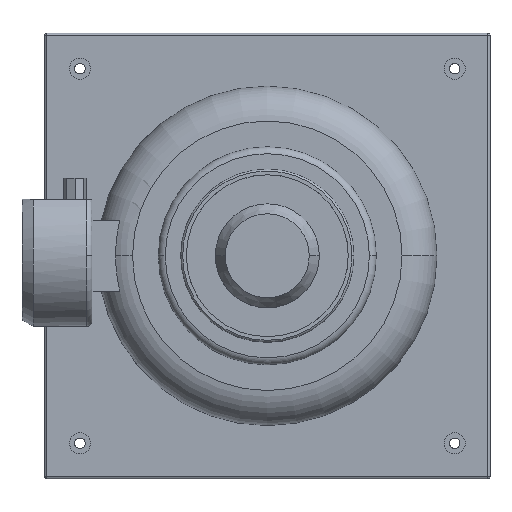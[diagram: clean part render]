
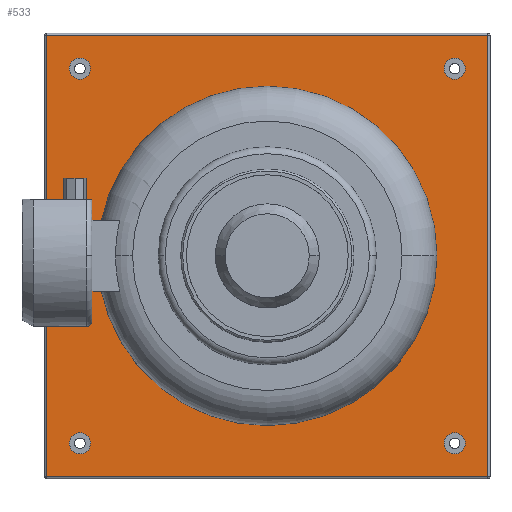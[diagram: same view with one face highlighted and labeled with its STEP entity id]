
A CAD part, top view. The second image highlights one B-rep face of the part: STEP entity #533.
In plain terms, the highlighted planar face has unit normal (0, 0, 1).
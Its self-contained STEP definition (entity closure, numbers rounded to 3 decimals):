
#533=ADVANCED_FACE('',(#1087,#1088,#1089,#1090,#1091,#1092),#1093,.T.);
#1087=FACE_BOUND('',#1642,.T.);
#1088=FACE_BOUND('',#1643,.T.);
#1089=FACE_BOUND('',#1644,.T.);
#1090=FACE_BOUND('',#1645,.T.);
#1091=FACE_BOUND('',#1646,.T.);
#1092=FACE_OUTER_BOUND('',#1647,.T.);
#1093=PLANE('',#1648);
#1642=EDGE_LOOP('',(#3288,#3289));
#1643=EDGE_LOOP('',(#3290,#3291));
#1644=EDGE_LOOP('',(#3292,#3293));
#1645=EDGE_LOOP('',(#3294,#3295));
#1646=EDGE_LOOP('',(#3296,#3297));
#1647=EDGE_LOOP('',(#3298,#3299,#3300,#3301));
#1648=AXIS2_PLACEMENT_3D('',#3302,#3303,#3304);
#3288=ORIENTED_EDGE('',*,*,#3455,.T.);
#3289=ORIENTED_EDGE('',*,*,#3550,.T.);
#3290=ORIENTED_EDGE('',*,*,#3358,.T.);
#3291=ORIENTED_EDGE('',*,*,#3884,.T.);
#3292=ORIENTED_EDGE('',*,*,#3348,.T.);
#3293=ORIENTED_EDGE('',*,*,#3891,.T.);
#3294=ORIENTED_EDGE('',*,*,#3338,.T.);
#3295=ORIENTED_EDGE('',*,*,#3898,.T.);
#3296=ORIENTED_EDGE('',*,*,#3328,.T.);
#3297=ORIENTED_EDGE('',*,*,#3905,.T.);
#3298=ORIENTED_EDGE('',*,*,#3977,.F.);
#3299=ORIENTED_EDGE('',*,*,#3917,.F.);
#3300=ORIENTED_EDGE('',*,*,#3979,.T.);
#3301=ORIENTED_EDGE('',*,*,#3962,.T.);
#3302=CARTESIAN_POINT('',(0.0,0.0,-57.5));
#3303=DIRECTION('',(0.0,-0.0,1.0));
#3304=DIRECTION('',(0.,1.0,0.0));
#3328=EDGE_CURVE('',#3995,#3992,#3996,.T.);
#3338=EDGE_CURVE('',#4013,#4010,#4014,.T.);
#3348=EDGE_CURVE('',#4031,#4028,#4032,.T.);
#3358=EDGE_CURVE('',#4049,#4046,#4050,.T.);
#3455=EDGE_CURVE('',#4226,#4223,#4227,.T.);
#3550=EDGE_CURVE('',#4223,#4226,#4367,.T.);
#3884=EDGE_CURVE('',#4046,#4049,#4841,.T.);
#3891=EDGE_CURVE('',#4028,#4031,#4848,.T.);
#3898=EDGE_CURVE('',#4010,#4013,#4855,.T.);
#3905=EDGE_CURVE('',#3992,#3995,#4862,.T.);
#3917=EDGE_CURVE('',#4866,#4879,#4880,.T.);
#3962=EDGE_CURVE('',#4939,#4898,#4943,.T.);
#3977=EDGE_CURVE('',#4879,#4898,#4958,.T.);
#3979=EDGE_CURVE('',#4866,#4939,#4960,.T.);
#3992=VERTEX_POINT('',#4975);
#3995=VERTEX_POINT('',#4979);
#3996=CIRCLE('',#4980,7.5);
#4010=VERTEX_POINT('',#4997);
#4013=VERTEX_POINT('',#5001);
#4014=CIRCLE('',#5002,7.5);
#4028=VERTEX_POINT('',#5019);
#4031=VERTEX_POINT('',#5023);
#4032=CIRCLE('',#5024,7.5);
#4046=VERTEX_POINT('',#5041);
#4049=VERTEX_POINT('',#5045);
#4050=CIRCLE('',#5046,7.5);
#4223=VERTEX_POINT('',#5248);
#4226=VERTEX_POINT('',#5252);
#4227=CIRCLE('',#5253,120.0);
#4367=CIRCLE('',#5597,120.0);
#4841=CIRCLE('',#6281,7.5);
#4848=CIRCLE('',#6288,7.5);
#4855=CIRCLE('',#6295,7.5);
#4862=CIRCLE('',#6302,7.5);
#4866=VERTEX_POINT('',#6306);
#4879=VERTEX_POINT('',#6321);
#4880=LINE('',#6322,#6323);
#4898=VERTEX_POINT('',#6344);
#4939=VERTEX_POINT('',#6393);
#4943=LINE('',#6397,#6398);
#4958=LINE('',#6420,#6421);
#4960=LINE('',#6423,#6424);
#4975=CARTESIAN_POINT('',(-132.5,140.0,-57.5));
#4979=CARTESIAN_POINT('',(-132.5,125.0,-57.5));
#4980=AXIS2_PLACEMENT_3D('',#6436,#6437,#6438);
#4997=CARTESIAN_POINT('',(-132.5,-125.0,-57.5));
#5001=CARTESIAN_POINT('',(-132.5,-140.0,-57.5));
#5002=AXIS2_PLACEMENT_3D('',#6452,#6453,#6454);
#5019=CARTESIAN_POINT('',(132.5,-125.0,-57.5));
#5023=CARTESIAN_POINT('',(132.5,-140.0,-57.5));
#5024=AXIS2_PLACEMENT_3D('',#6468,#6469,#6470);
#5041=CARTESIAN_POINT('',(132.5,140.0,-57.5));
#5045=CARTESIAN_POINT('',(132.5,125.0,-57.5));
#5046=AXIS2_PLACEMENT_3D('',#6484,#6485,#6486);
#5248=CARTESIAN_POINT('',(0.,120.0,-57.5));
#5252=CARTESIAN_POINT('',(0.,-120.0,-57.5));
#5253=AXIS2_PLACEMENT_3D('',#6679,#6680,#6681);
#5597=AXIS2_PLACEMENT_3D('',#6795,#6796,#6797);
#6281=AXIS2_PLACEMENT_3D('',#7107,#7108,#7109);
#6288=AXIS2_PLACEMENT_3D('',#7119,#7120,#7121);
#6295=AXIS2_PLACEMENT_3D('',#7131,#7132,#7133);
#6302=AXIS2_PLACEMENT_3D('',#7143,#7144,#7145);
#6306=CARTESIAN_POINT('',(156.0,156.0,-57.5));
#6321=CARTESIAN_POINT('',(156.0,-156.0,-57.5));
#6322=CARTESIAN_POINT('',(156.0,0.,-57.5));
#6323=VECTOR('',#7163,1.0);
#6344=CARTESIAN_POINT('',(-156.0,-156.0,-57.5));
#6393=CARTESIAN_POINT('',(-156.0,156.0,-57.5));
#6397=CARTESIAN_POINT('',(-156.0,0.,-57.5));
#6398=VECTOR('',#7235,1.0);
#6420=CARTESIAN_POINT('',(0.,-156.0,-57.5));
#6421=VECTOR('',#7243,1.0);
#6423=CARTESIAN_POINT('',(0.,156.0,-57.5));
#6424=VECTOR('',#7244,1.0);
#6436=CARTESIAN_POINT('',(-132.5,132.5,-57.5));
#6437=DIRECTION('',(0.0,0.0,-1.0));
#6438=DIRECTION('',(0.,1.0,0.0));
#6452=CARTESIAN_POINT('',(-132.5,-132.5,-57.5));
#6453=DIRECTION('',(0.0,0.0,-1.0));
#6454=DIRECTION('',(0.,1.0,0.0));
#6468=CARTESIAN_POINT('',(132.5,-132.5,-57.5));
#6469=DIRECTION('',(0.0,0.0,-1.0));
#6470=DIRECTION('',(0.,1.0,0.0));
#6484=CARTESIAN_POINT('',(132.5,132.5,-57.5));
#6485=DIRECTION('',(0.0,0.0,-1.0));
#6486=DIRECTION('',(0.,1.0,0.0));
#6679=CARTESIAN_POINT('',(0.0,0.0,-57.5));
#6680=DIRECTION('',(0.0,0.0,-1.0));
#6681=DIRECTION('',(0.,1.0,0.0));
#6795=CARTESIAN_POINT('',(0.0,0.0,-57.5));
#6796=DIRECTION('',(0.0,0.0,-1.0));
#6797=DIRECTION('',(0.,1.0,0.0));
#7107=CARTESIAN_POINT('',(132.5,132.5,-57.5));
#7108=DIRECTION('',(0.0,0.0,-1.0));
#7109=DIRECTION('',(0.,1.0,0.0));
#7119=CARTESIAN_POINT('',(132.5,-132.5,-57.5));
#7120=DIRECTION('',(0.0,0.0,-1.0));
#7121=DIRECTION('',(0.,1.0,0.0));
#7131=CARTESIAN_POINT('',(-132.5,-132.5,-57.5));
#7132=DIRECTION('',(0.0,0.0,-1.0));
#7133=DIRECTION('',(0.,1.0,0.0));
#7143=CARTESIAN_POINT('',(-132.5,132.5,-57.5));
#7144=DIRECTION('',(0.0,0.0,-1.0));
#7145=DIRECTION('',(0.,1.0,0.0));
#7163=DIRECTION('',(0.,-1.0,0.));
#7235=DIRECTION('',(0.,-1.0,0.));
#7243=DIRECTION('',(-1.0,0.,0.));
#7244=DIRECTION('',(-1.0,0.,0.));
